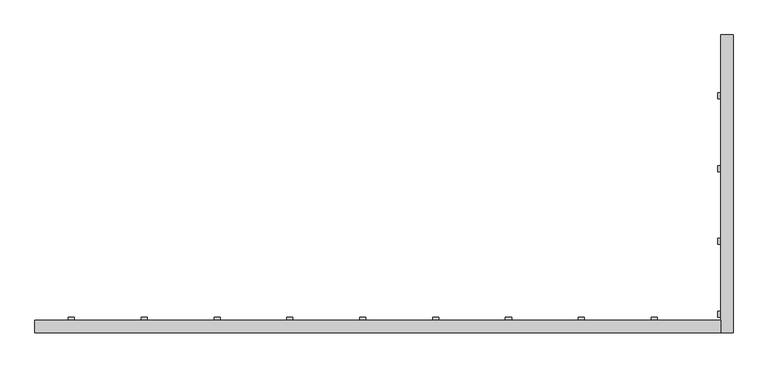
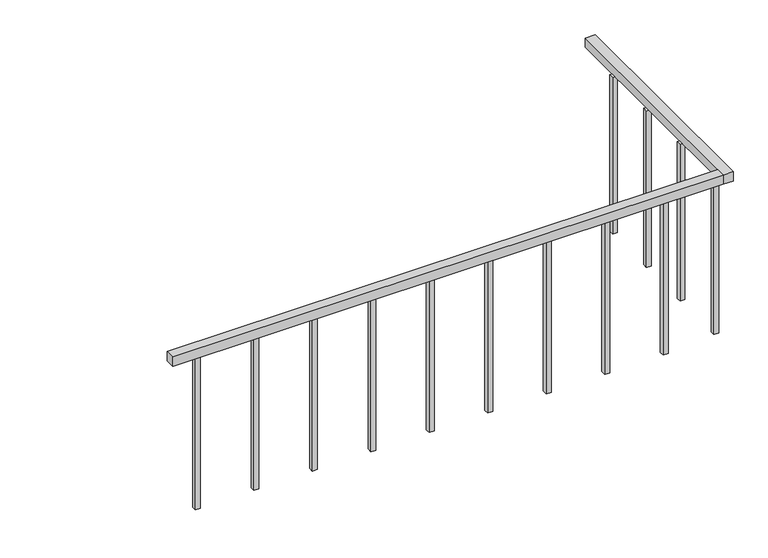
"""IFC4 building model written with IfcOpenShell, lengths in millimetres: railing geometry, ADSK_Стандартное_h 900 Поручень квадратный без направляющих."""

from ifc_helpers import new_model, si_unit, frame, origin, place, context, project, spatial, polyline, outline, extrude, source, transform, mapped, element, save


def railing_7b2d479c(model_context):
    return source(origin(), model_context, "Body", "SweptSolid", [
        extrude(outline(polyline([(-3162.3240021, 15293.8207341), (-3162.3240021, 15343.8207341), (-337.7240021, 15343.8207341), (-337.7240021, 15293.8207341), (-3162.3240021, 15293.8207341)])), frame((0.0, 0.0, 4495.8333333), z_axis=(0.0, 0.0, 1.0), x_axis=(1.0, 0.0, 0.0)), (0.0, 0.0, 1.0), 50.0),
        extrude(outline(polyline([(-287.7240021, 15293.8207341), (-337.7240021, 15293.8207341), (-337.7240021, 16519.4362632), (-287.7240021, 16519.4362632), (-287.7240021, 15293.8207341)])), frame((0.0, 0.0, 4495.8333333), z_axis=(0.0, 0.0, 1.0), x_axis=(1.0, 0.0, 0.0)), (0.0, 0.0, 1.0), 50.0),
        extrude(outline(polyline([(-325.2240021, 16256.7207341), (-350.2240021, 16256.7207341), (-350.2240021, 16281.7207341), (-325.2240021, 16281.7207341), (-325.2240021, 16256.7207341)])), frame((0.0, 0.0, 3645.8333333), z_axis=(0.0, 0.0, 1.0), x_axis=(1.0, 0.0, 0.0)), (0.0, 0.0, 1.0), 850.0),
        extrude(outline(polyline([(-325.2240021, 15956.7207341), (-350.2240021, 15956.7207341), (-350.2240021, 15981.7207341), (-325.2240021, 15981.7207341), (-325.2240021, 15956.7207341)])), frame((0.0, 0.0, 3645.8333333), z_axis=(0.0, 0.0, 1.0), x_axis=(1.0, 0.0, 0.0)), (0.0, 0.0, 1.0), 850.0),
        extrude(outline(polyline([(-325.2240021, 15656.7207341), (-350.2240021, 15656.7207341), (-350.2240021, 15681.7207341), (-325.2240021, 15681.7207341), (-325.2240021, 15656.7207341)])), frame((0.0, 0.0, 3645.8333333), z_axis=(0.0, 0.0, 1.0), x_axis=(1.0, 0.0, 0.0)), (0.0, 0.0, 1.0), 850.0),
        extrude(outline(polyline([(-325.2240021, 15356.7207341), (-350.2240021, 15356.7207341), (-350.2240021, 15381.7207341), (-325.2240021, 15381.7207341), (-325.2240021, 15356.7207341)])), frame((0.0, 0.0, 3645.8333333), z_axis=(0.0, 0.0, 1.0), x_axis=(1.0, 0.0, 0.0)), (0.0, 0.0, 1.0), 850.0),
        extrude(outline(polyline([(-624.8240021, 15331.3207341), (-624.8240021, 15356.3207341), (-599.8240021, 15356.3207341), (-599.8240021, 15331.3207341), (-624.8240021, 15331.3207341)])), frame((0.0, 0.0, 3645.8333333), z_axis=(0.0, 0.0, 1.0), x_axis=(1.0, 0.0, 0.0)), (0.0, 0.0, 1.0), 850.0),
        extrude(outline(polyline([(-924.8240021, 15331.3207341), (-924.8240021, 15356.3207341), (-899.8240021, 15356.3207341), (-899.8240021, 15331.3207341), (-924.8240021, 15331.3207341)])), frame((0.0, 0.0, 3645.8333333), z_axis=(0.0, 0.0, 1.0), x_axis=(1.0, 0.0, 0.0)), (0.0, 0.0, 1.0), 850.0),
        extrude(outline(polyline([(-1224.8240021, 15331.3207341), (-1224.8240021, 15356.3207341), (-1199.8240021, 15356.3207341), (-1199.8240021, 15331.3207341), (-1224.8240021, 15331.3207341)])), frame((0.0, 0.0, 3645.8333333), z_axis=(0.0, 0.0, 1.0), x_axis=(1.0, 0.0, 0.0)), (0.0, 0.0, 1.0), 850.0),
        extrude(outline(polyline([(-1524.8240021, 15331.3207341), (-1524.8240021, 15356.3207341), (-1499.8240021, 15356.3207341), (-1499.8240021, 15331.3207341), (-1524.8240021, 15331.3207341)])), frame((0.0, 0.0, 3645.8333333), z_axis=(0.0, 0.0, 1.0), x_axis=(1.0, 0.0, 0.0)), (0.0, 0.0, 1.0), 850.0),
        extrude(outline(polyline([(-1824.8240021, 15331.3207341), (-1824.8240021, 15356.3207341), (-1799.8240021, 15356.3207341), (-1799.8240021, 15331.3207341), (-1824.8240021, 15331.3207341)])), frame((0.0, 0.0, 3645.8333333), z_axis=(0.0, 0.0, 1.0), x_axis=(1.0, 0.0, 0.0)), (0.0, 0.0, 1.0), 850.0),
        extrude(outline(polyline([(-2124.8240021, 15331.3207341), (-2124.8240021, 15356.3207341), (-2099.8240021, 15356.3207341), (-2099.8240021, 15331.3207341), (-2124.8240021, 15331.3207341)])), frame((0.0, 0.0, 3645.8333333), z_axis=(0.0, 0.0, 1.0), x_axis=(1.0, 0.0, 0.0)), (0.0, 0.0, 1.0), 850.0),
        extrude(outline(polyline([(-2424.8240021, 15331.3207341), (-2424.8240021, 15356.3207341), (-2399.8240021, 15356.3207341), (-2399.8240021, 15331.3207341), (-2424.8240021, 15331.3207341)])), frame((0.0, 0.0, 3645.8333333), z_axis=(0.0, 0.0, 1.0), x_axis=(1.0, 0.0, 0.0)), (0.0, 0.0, 1.0), 850.0),
        extrude(outline(polyline([(-2724.8240021, 15331.3207341), (-2724.8240021, 15356.3207341), (-2699.8240021, 15356.3207341), (-2699.8240021, 15331.3207341), (-2724.8240021, 15331.3207341)])), frame((0.0, 0.0, 3645.8333333), z_axis=(0.0, 0.0, 1.0), x_axis=(1.0, 0.0, 0.0)), (0.0, 0.0, 1.0), 850.0),
        extrude(outline(polyline([(-3024.8240021, 15331.3207341), (-3024.8240021, 15356.3207341), (-2999.8240021, 15356.3207341), (-2999.8240021, 15331.3207341), (-3024.8240021, 15331.3207341)])), frame((0.0, 0.0, 3645.8333333), z_axis=(0.0, 0.0, 1.0), x_axis=(1.0, 0.0, 0.0)), (0.0, 0.0, 1.0), 850.0),
    ])


if __name__ == "__main__":
    model = new_model("IFC4")
    model_context = context("Model", 3, world=origin())
    ifc_project = project(units=[si_unit("LENGTHUNIT", "METRE", prefix="MILLI")], contexts=[model_context])
    site = spatial("IfcSite", under=ifc_project)
    building = spatial("IfcBuilding", under=site)
    placement = place(None, origin())
    railing_shape = railing_7b2d479c(model_context)
    element("IfcRailing", 1, ObjectType="ADSK_Стандартное_h 900 Поручень квадратный без направляющих", at=placement, inside=building, context=model_context, shape_type="MappedRepresentation", body=[
        mapped(railing_shape, transform((0.0, 0.0, 0.0), x_axis=(1.0, 0.0, 0.0), y_axis=(0.0, 1.0, 0.0), z_axis=(0.0, 0.0, 1.0))),
    ])
    save(model, "model.ifc")
